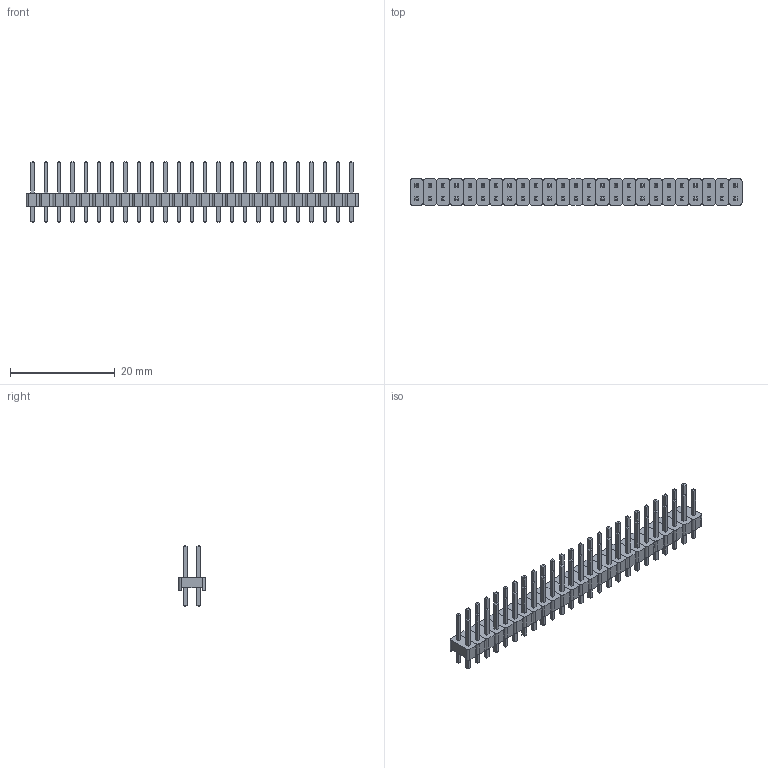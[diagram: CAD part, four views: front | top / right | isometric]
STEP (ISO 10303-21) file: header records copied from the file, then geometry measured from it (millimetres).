
FILE_DESCRIPTION(('FreeCAD Model'),'2;1');
FILE_NAME('Open CASCADE Shape Model','2022-04-06T16:02:15',( 'Engenharia Metaltex'),('Metaltex'), 'Open CASCADE STEP processor 7.5','FreeCAD','Unknown');
FILE_SCHEMA(('AUTOMOTIVE_DESIGN { 1 0 10303 214 1 1 1 1 }'));
Length unit declared in the file: millimetre
Products named in the file (101): BPDC; 25; Base024; Pino049; Pino050; 1; Base; Pino1; Pino2; 2; Base001; Pino003; Pino004; 3; Base002; Pino006; Pino005; 4; Base003; Pino008; Pino007; 5; Base004; Pino009; Pino010; 6; Base005; Pino012; Pino011; 7; Base006; Pino013; Pino014; 8; Base007; Pino015; Pino016; 9; Base008; Pino017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
Assembly tree (100 placements, depth 3):
  BPDC
    25
      Base024
      Pino049
      Pino050
    1
      Base
      Pino1
      Pino2
    2
      Base001
      Pino003
      Pino004
    3
      Base002
      Pino006
      Pino005
    4
      Base003
      Pino008
      Pino007
    5
      Base004
      Pino009
      Pino010
    6
      Base005
      Pino012
      Pino011
    7
      Base006
      Pino013
      Pino014
    8
      Base007
      Pino015
      Pino016
    9
      Base008
      Pino017
      Pino018
    10
      Base009
      Pino019
      Pino020
    11
      Base010
      Pino021
      Pino022
    12
      Base011
      Pino023
      Pino024
    13
      Base012
      Pino025
      Pino026
    14
      Base013
      Pino027
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Bounding box: 63.5 x 5.08 x 11.54 mm (x, y, z)
Volume: 873 mm3; surface area: 3215.8 mm2
Topology: 75 solids, 75 shells, 1250 faces, 2900 edges, 1800 vertices
Faces by surface type: plane 1150, cylinder 100
Entity records: 75019 total; most frequent: CARTESIAN_POINT 12451, DIRECTION 11502, LINE 8300, VECTOR 8300, ORIENTED_EDGE 5800, PCURVE 5800, DEFINITIONAL_REPRESENTATION 5800, EDGE_CURVE 2900
